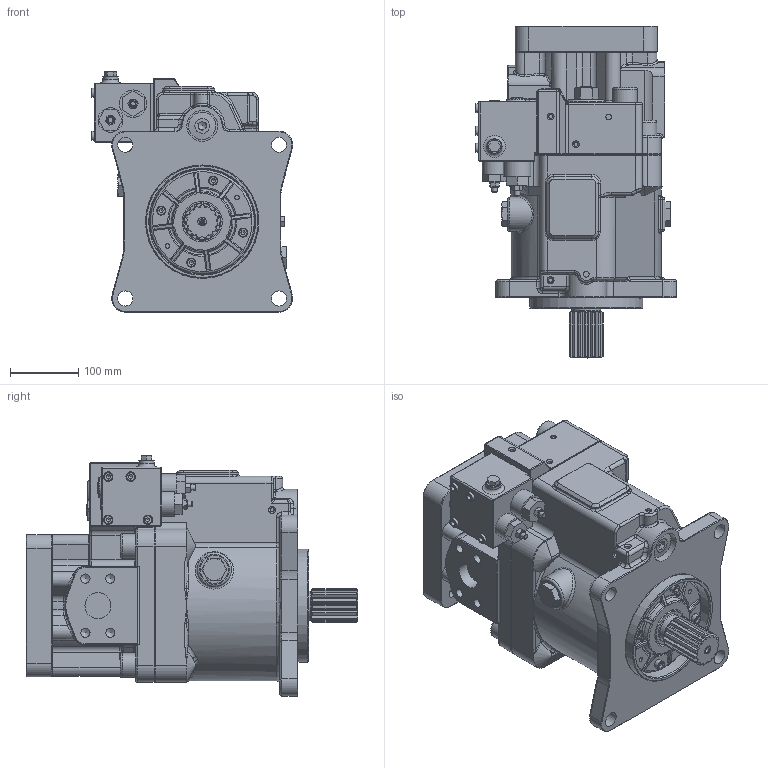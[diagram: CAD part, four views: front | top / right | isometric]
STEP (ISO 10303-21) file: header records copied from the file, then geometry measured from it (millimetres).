
FILE_DESCRIPTION((''),'2;1');
FILE_NAME('I:\3D Step files\KPMJ models\K3VL200\K3VL200B - 1DRFM-L1.stp','2013-01-22T10:54:39',('mnorman'),(''),'Autodesk Inventor 2013','Autodesk Inventor 2013','');
FILE_SCHEMA(('AUTOMOTIVE_DESIGN { 1 0 10303 214 1 1 1 1 }'));
Length unit declared in the file: millimetre
Products named in the file (1): Part3
Bounding box: 294.2 x 485 x 351.25 mm (x, y, z)
Volume: 19783905.1 mm3; surface area: 810559.2 mm2
Topology: 33 solids, 33 shells, 1658 faces, 3902 edges, 2361 vertices
Faces by surface type: plane 630, cylinder 409, cone 258, torus 180, bspline 174, sphere 7
Full cylindrical faces by diameter (mm): 2 x2, 4 x1, 4.917 x4, 5.917 x5, 6.647 x2, 8 x16, 8.376 x2, 9 x8, 10.106 x8, 12 x8, 12.5 x1, 13 x8, 13.386 x8, 13.5 x8, 13.835 x4, 14 x4, 16 x2, 18 x8, 20 x9, 21 x1, 22 x5, 36 x6, 38 x1, 39 x5, 40 x2, 41 x2, 42 x1, 45 x1, 50 x1, 55 x1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
Entity records: 54360 total; most frequent: CARTESIAN_POINT 17540, DIRECTION 7166, ORIENTED_EDGE 7024, EDGE_CURVE 3512, AXIS2_PLACEMENT_3D 2897, VERTEX_POINT 2271, EDGE_LOOP 2065, FACE_OUTER_BOUND 1658
